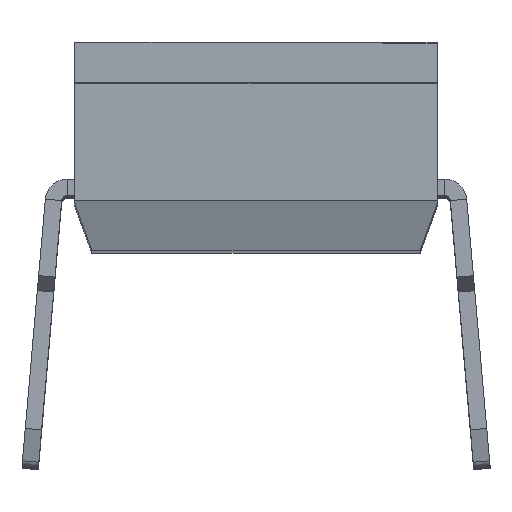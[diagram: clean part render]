
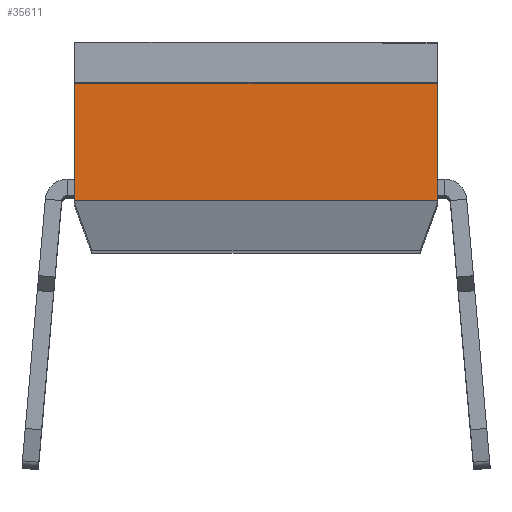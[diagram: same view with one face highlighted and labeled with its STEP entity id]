
A CAD part, top view. The second image highlights one B-rep face of the part: STEP entity #35611.
In plain terms, the highlighted planar face has unit normal (0, 0, 1).
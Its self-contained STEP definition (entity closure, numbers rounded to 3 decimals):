
#172 = EDGE_CURVE ( 'NONE', #31779, #4303, #16677, .T. ) ;
#477 = LINE ( 'NONE', #11503, #1035 ) ;
#1035 = VECTOR ( 'NONE', #22565, 1000. ) ;
#2926 = DIRECTION ( 'NONE',  ( 0., 1., 0. ) ) ;
#3666 = CARTESIAN_POINT ( 'NONE',  ( 3.325, 0.9, 31.96 ) ) ;
#3706 = ORIENTED_EDGE ( 'NONE', *, *, #31709, .F. ) ;
#4303 = VERTEX_POINT ( 'NONE', #30735 ) ;
#5474 = CARTESIAN_POINT ( 'NONE',  ( 3.325, 0.9, 31.96 ) ) ;
#7001 = CARTESIAN_POINT ( 'NONE',  ( -3.325, 0.9, 31.96 ) ) ;
#8561 = LINE ( 'NONE', #19616, #13011 ) ;
#8633 = ORIENTED_EDGE ( 'NONE', *, *, #17881, .T. ) ;
#8869 = ORIENTED_EDGE ( 'NONE', *, *, #28427, .T. ) ;
#8941 = DIRECTION ( 'NONE',  ( 0., 0., 1. ) ) ;
#11503 = CARTESIAN_POINT ( 'NONE',  ( -3.325, 3.07, 31.96 ) ) ;
#11660 = FACE_OUTER_BOUND ( 'NONE', #33078, .T. ) ;
#13011 = VECTOR ( 'NONE', #30554, 1000. ) ;
#16515 = DIRECTION ( 'NONE',  ( -1., 0., 0. ) ) ;
#16677 = LINE ( 'NONE', #27607, #30375 ) ;
#17881 = EDGE_CURVE ( 'NONE', #4303, #31472, #8561, .T. ) ;
#19616 = CARTESIAN_POINT ( 'NONE',  ( 2.65, 3.07, 31.96 ) ) ;
#20004 = DIRECTION ( 'NONE',  ( 1., 0., 0. ) ) ;
#21055 = VECTOR ( 'NONE', #16515, 1000. ) ;
#22565 = DIRECTION ( 'NONE',  ( 0., -1., 0. ) ) ;
#22714 = PLANE ( 'NONE',  #30990 ) ;
#27607 = CARTESIAN_POINT ( 'NONE',  ( 3.325, 3.07, 31.96 ) ) ;
#28427 = EDGE_CURVE ( 'NONE', #31472, #29272, #477, .T. ) ;
#29272 = VERTEX_POINT ( 'NONE', #7001 ) ;
#30175 = LINE ( 'NONE', #5474, #21055 ) ;
#30375 = VECTOR ( 'NONE', #2926, 1000. ) ;
#30554 = DIRECTION ( 'NONE',  ( -1., 0., 0. ) ) ;
#30735 = CARTESIAN_POINT ( 'NONE',  ( 3.325, 3.07, 31.96 ) ) ;
#30990 = AXIS2_PLACEMENT_3D ( 'NONE', #33652, #8941, #20004 ) ;
#31472 = VERTEX_POINT ( 'NONE', #35655 ) ;
#31709 = EDGE_CURVE ( 'NONE', #31779, #29272, #30175, .T. ) ;
#31779 = VERTEX_POINT ( 'NONE', #3666 ) ;
#33078 = EDGE_LOOP ( 'NONE', ( #3706, #34244, #8633, #8869 ) ) ;
#33652 = CARTESIAN_POINT ( 'NONE',  ( 2.997, 0., 31.96 ) ) ;
#34244 = ORIENTED_EDGE ( 'NONE', *, *, #172, .T. ) ;
#35611 = ADVANCED_FACE ( 'NONE', ( #11660 ), #22714, .T. ) ;
#35655 = CARTESIAN_POINT ( 'NONE',  ( -3.325, 3.07, 31.96 ) ) ;
